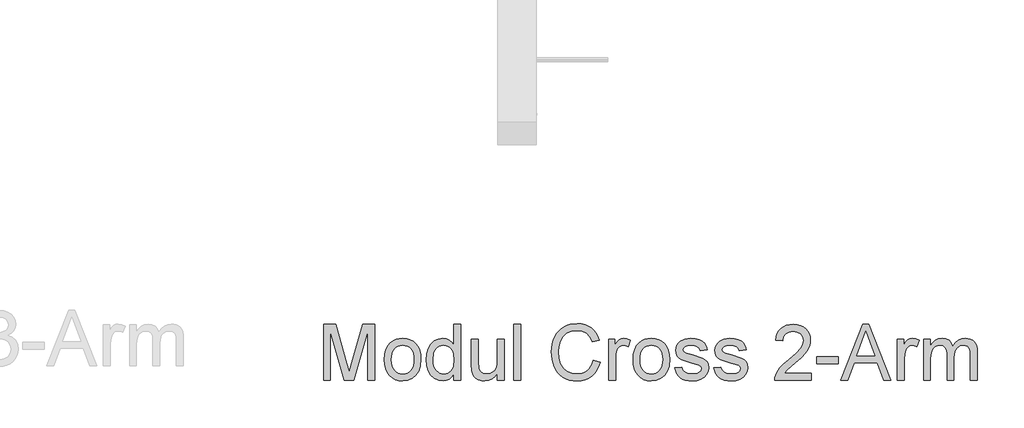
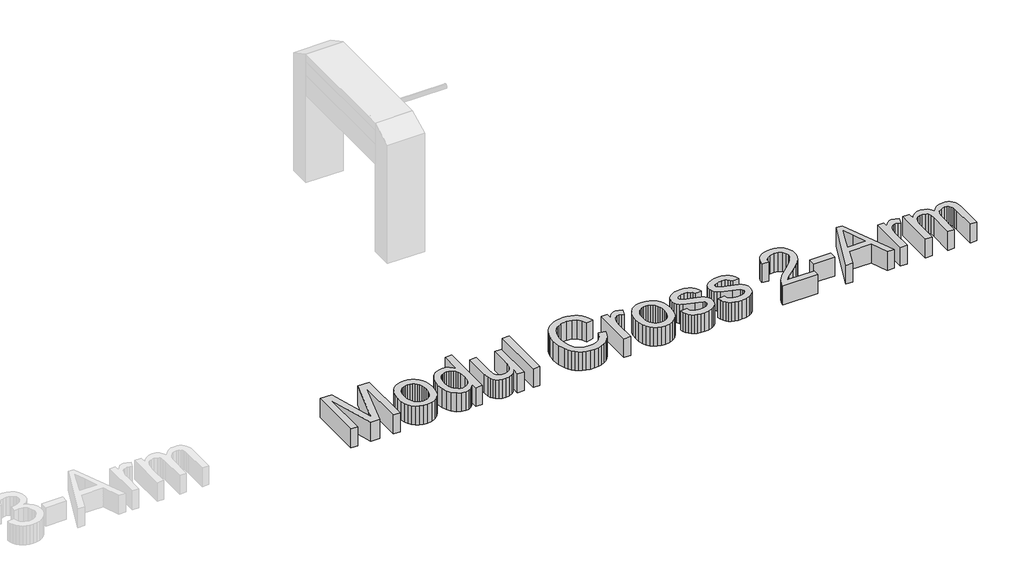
# One storey, part 6 of 6: 1 proxy.
"""IFC4 building model written with IfcOpenShell, lengths in millimetres."""

from ifc_helpers import new_model, si_unit, origin, origin_with_axes, place, context, project, spatial, polyline, outline, extrude, element, save

model = new_model("IFC4")

# Units and contexts
model_context = context("Model", 3, world=origin())
ifc_project = project(units=[si_unit("LENGTHUNIT", "METRE", prefix="MILLI")], contexts=[model_context])

# Site, building, storey
site = spatial("IfcSite", under=ifc_project)
building = spatial("IfcBuilding", under=site)
storey = spatial("IfcBuildingStorey", under=building, Name="Уровень 1", Elevation=0.0)

# Proxy
placement = place(None, origin())
element("IfcBuildingElementProxy", 1, Name="600 мм Arial", ObjectType="600 мм Arial", at=placement, inside=storey, context=model_context, shape_type="SweptSolid", body=[
    extrude(outline(polyline([(9699.3980238, 3807.6645786), (9699.3980238, 4209.4898192), (9785.8257672, 4209.4898192), (9868.0351304, 3926.2697339), (9884.6143456, 3867.114309), (9902.566987, 3931.1748271), (9983.402924, 4209.4898192), (10069.8306674, 4209.4898192), (10069.8306674, 3807.6645786), (10019.6025124, 3807.6645786), (10019.6025124, 4159.2616641), (9918.6556929, 3807.6645786), (9850.5729983, 3807.6645786), (9749.6261788, 4159.2616641), (9749.6261788, 3807.6645786), (9699.3980238, 3807.6645786)])), origin_with_axes(), (0.0, 0.0, 1.0), 150.0),
    extrude(outline(polyline([(10138.8943807, 3955.2097841), (10141.6105761, 3993.4265921), (10149.7591623, 4026.358162), (10163.3401393, 4054.0044939), (10182.353507, 4076.3655879), (10201.4956335, 4090.6578034), (10222.6243228, 4100.8665288), (10245.7395748, 4106.991764), (10270.8413896, 4109.0335091), (10298.5521009, 4106.5472399), (10323.6079305, 4099.0884325), (10346.0088783, 4086.6570867), (10365.7549444, 4069.2532026), (10381.8712414, 4047.4653915), (10393.3828822, 4021.8822644), (10400.2898667, 3992.5038214), (10402.5921948, 3959.3300625), (10398.5209674, 3908.5868726), (10386.3072852, 3869.9592631), (10366.3067674, 3841.0314756), (10338.8750333, 3819.3877515), (10306.2929512, 3805.8864823), (10270.8413896, 3801.3860592), (10242.7260081, 3803.8631313), (10217.4371866, 3811.2943476), (10194.9749252, 3823.6797081), (10175.3392237, 3841.0192128), (10159.3946049, 3863.0185562), (10148.0055914, 3889.3834325), (10141.1721834, 3920.1138418), (10138.8943807, 3955.2097841)]), holes=[polyline([(10189.1225358, 3955.307886), (10190.5756696, 3930.9449009), (10194.9350713, 3909.8499341), (10202.2007407, 3892.0229858), (10212.3726778, 3877.4640558), (10224.7457756, 3866.1547502), (10238.6149268, 3858.0766747), (10253.9801315, 3853.2298294), (10270.8413896, 3851.6142143), (10287.6168086, 3853.2390264), (10302.9206996, 3858.1134629), (10316.7530626, 3866.2375236), (10329.1138976, 3877.6112086), (10339.2858348, 3892.3142257), (10346.5515042, 3910.4262826), (10350.9109059, 3931.9473793), (10352.3640397, 3956.8775159), (10350.9017088, 3980.4679488), (10346.514716, 4001.0110925), (10339.2030614, 4018.5069471), (10328.9667449, 4032.9555125), (10316.5599246, 4044.2648181), (10302.7367586, 4052.3428936), (10287.4972469, 4057.1897389), (10270.8413896, 4058.805354), (10253.9801315, 4057.1958703), (10238.6149268, 4052.3674191), (10224.7457756, 4044.3200004), (10212.3726778, 4033.0536143), (10202.2007407, 4018.5376039), (10194.9350713, 4000.7413124), (10190.5756696, 3979.6647398), (10189.1225358, 3955.307886)])]), origin_with_axes(), (0.0, 0.0, 1.0), 150.0),
    extrude(outline(polyline([(10641.1759314, 3807.6645786), (10641.1759314, 3855.0477796), (10626.1479519, 3831.5707769), (10607.9439245, 3814.8014893), (10586.5638492, 3804.7399168), (10562.0077261, 3801.3860592), (10529.5360086, 3806.2421016), (10499.8111434, 3820.8102286), (10474.6480149, 3844.0726334), (10455.8615077, 3875.0115092), (10444.1628603, 3912.3760572), (10440.2633111, 3954.9154785), (10443.8562919, 3996.9276024), (10454.6352344, 4034.8684988), (10472.5878758, 4066.5799268), (10497.7019533, 4089.9036453), (10528.0767434, 4104.2510431), (10561.8115223, 4109.0335091), (10586.3860396, 4105.6122065), (10608.1156028, 4095.3482988), (10626.534228, 4079.6152122), (10641.1759314, 4059.7863726), (10641.1759314, 4209.4898192), (10691.4040865, 4209.4898192), (10691.4040865, 3807.6645786), (10641.1759314, 3807.6645786)]), holes=[polyline([(10490.4914662, 3955.1116823), (10491.9078119, 3930.7548285), (10496.1568489, 3909.6782559), (10503.2385773, 3891.8819644), (10513.1529971, 3877.365954), (10537.8501417, 3858.0521492), (10551.7254243, 3853.223698), (10566.6185137, 3851.6142143), (10581.5821139, 3853.1501216), (10595.374623, 3857.7578436), (10619.4463682, 3876.1887316), (10628.9530521, 3890.0977367), (10635.7435406, 3907.2502347), (10641.1759314, 3951.2857095), (10635.6454388, 3999.4292), (10628.7323229, 4017.9643212), (10619.0539608, 4032.8083597), (10607.3522477, 4044.1820447), (10594.3690789, 4052.3061054), (10580.1044545, 4057.1805418), (10564.5583746, 4058.805354), (10549.3709795, 4057.2449212), (10535.4956969, 4052.5636228), (10522.9325268, 4044.7614588), (10511.6814691, 4033.8384292), (10502.4108428, 4019.5554108), (10495.7889669, 4001.6732801), (10490.4914662, 3955.1116823)])]), origin_with_axes(), (0.0, 0.0, 1.0), 150.0),
    extrude(outline(polyline([(10955.1019006, 3807.6645786), (10955.1019006, 3858.383243), (10936.9285301, 3833.4469751), (10915.7630526, 3815.6353552), (10891.6054683, 3804.9483832), (10864.455777, 3801.3860592), (10839.9916244, 3803.8876568), (10817.2197288, 3811.3924495), (10798.1143906, 3822.674164), (10784.6499095, 3836.506527), (10775.5877497, 3853.3064715), (10769.6893751, 3873.4909303), (10766.7463191, 3920.1874182), (10766.7463191, 4102.7549897), (10816.9744742, 4102.7549897), (10816.9744742, 3943.8299678), (10820.015632, 3892.620794), (10827.3364837, 3875.5388067), (10839.8812598, 3862.5525723), (10856.8160943, 3854.3488038), (10877.3071214, 3851.6142143), (10898.9753709, 3854.4101175), (10919.2456688, 3862.797827), (10935.9597742, 3876.0047906), (10946.9594458, 3893.2584562), (10953.0662869, 3916.888743), (10955.1019006, 3949.2255704), (10955.1019006, 4102.7549897), (11005.3300557, 4102.7549897), (11005.3300557, 3807.6645786), (10955.1019006, 3807.6645786)])), origin_with_axes(), (0.0, 0.0, 1.0), 150.0),
    extrude(outline(polyline([(11074.3937689, 3807.6645786), (11074.3937689, 4209.4898192), (11124.621924, 4209.4898192), (11124.621924, 3807.6645786), (11074.3937689, 3807.6645786)])), origin_with_axes(), (0.0, 0.0, 1.0), 150.0),
    extrude(outline(polyline([(11645.7390329, 3950.5008946), (11695.967188, 3937.5514484), (11686.0282428, 3906.3152013), (11672.7906223, 3879.0214229), (11656.2543266, 3855.6701133), (11636.4193557, 3836.2612724), (11613.7332993, 3821.0033666), (11588.6437473, 3810.1048625), (11561.1506995, 3803.56576), (11531.254156, 3801.3860592), (11500.6249142, 3803.0353968), (11472.9939107, 3807.9834097), (11448.3611455, 3816.2300977), (11426.7266185, 3827.775461), (11407.7929584, 3842.4478213), (11391.2627941, 3860.0755002), (11377.1361255, 3880.6584978), (11365.4129526, 3904.1968141), (11349.630815, 3956.0681755), (11344.3701025, 4011.6183567), (11350.3175281, 4070.2096958), (11357.75181, 4096.5071271), (11368.1598048, 4120.8057329), (11381.3085205, 4142.7039087), (11396.964965, 4161.8000499), (11415.1291386, 4178.0941566), (11435.801041, 4191.5862288), (11458.2786309, 4202.1659018), (11481.8598668, 4209.7228111), (11532.3332765, 4215.7683386), (11561.0617947, 4213.8124327), (11587.4052112, 4207.9447148), (11611.3635262, 4198.1651851), (11632.9367395, 4184.4738435), (11651.769232, 4167.2324407), (11667.5053843, 4146.8027272), (11680.1451965, 4123.1847031), (11689.6886686, 4096.3783684), (11639.4605135, 4084.4099409), (11622.0474324, 4121.0387248), (11598.2577301, 4146.1650651), (11567.7971009, 4160.6964039), (11530.3712392, 4165.5401835), (11487.2309439, 4160.1691064), (11468.5486699, 4153.45526), (11451.7916451, 4144.055875), (11424.8994712, 4118.8927465), (11407.400551, 4086.3719782), (11397.7988309, 4049.6083041), (11394.5982575, 4011.7164586), (11398.3874421, 3965.3142763), (11409.7549957, 3925.1906133), (11429.1301142, 3892.8783114), (11456.941993, 3869.9102122), (11490.2843645, 3856.1882138), (11526.2509609, 3851.6142143), (11548.087823, 3853.1715814), (11568.1772456, 3857.8436828), (11586.5192287, 3865.6305183), (11603.1137724, 3876.5320881), (11617.5684691, 3890.4993412), (11629.4909115, 3907.4832266), (11638.8810994, 3927.4837444), (11645.7390329, 3950.5008946)])), origin_with_axes(), (0.0, 0.0, 1.0), 150.0),
    extrude(outline(polyline([(11758.7523818, 3807.6645786), (11758.7523818, 4102.7549897), (11802.7020175, 4102.7549897), (11802.7020175, 4059.0996596), (11818.9378762, 4084.4099409), (11833.8984107, 4099.3214244), (11848.9079961, 4106.6054879), (11865.2910076, 4109.0335091), (11890.3069833, 4105.1584854), (11915.7153664, 4093.5334143), (11898.9399475, 4048.5046581), (11881.2816117, 4056.23018), (11863.6232759, 4058.805354), (11848.6259533, 4056.3282819), (11835.2227859, 4048.8970656), (11824.3947925, 4037.0757908), (11817.1229917, 4021.4285433), (11811.0161506, 3993.3714098), (11808.9805369, 3962.7636278), (11808.9805369, 3807.6645786), (11758.7523818, 3807.6645786)])), origin_with_axes(), (0.0, 0.0, 1.0), 150.0),
    extrude(outline(polyline([(11934.5509246, 3955.2097841), (11937.26712, 3993.4265921), (11945.4157062, 4026.358162), (11958.9966832, 4054.0044939), (11978.010051, 4076.3655879), (11997.1521774, 4090.6578034), (12018.2808667, 4100.8665288), (12041.3961187, 4106.991764), (12066.4979335, 4109.0335091), (12094.2086448, 4106.5472399), (12119.2644744, 4099.0884325), (12141.6654222, 4086.6570867), (12161.4114883, 4069.2532026), (12177.5277854, 4047.4653915), (12189.0394261, 4021.8822644), (12195.9464106, 3992.5038214), (12198.2487387, 3959.3300625), (12194.1775113, 3908.5868726), (12181.9638291, 3869.9592631), (12161.9633113, 3841.0314756), (12134.5315772, 3819.3877515), (12101.9494951, 3805.8864823), (12066.4979335, 3801.3860592), (12038.3825521, 3803.8631313), (12013.0937306, 3811.2943476), (11990.6314691, 3823.6797081), (11970.9957676, 3841.0192128), (11955.0511488, 3863.0185562), (11943.6621353, 3889.3834325), (11936.8287273, 3920.1138418), (11934.5509246, 3955.2097841)]), holes=[polyline([(11984.7790797, 3955.307886), (11986.2322136, 3930.9449009), (11990.5916152, 3909.8499341), (11997.8572846, 3892.0229858), (12008.0292218, 3877.4640558), (12020.4023195, 3866.1547502), (12034.2714708, 3858.0766747), (12049.6366754, 3853.2298294), (12066.4979335, 3851.6142143), (12083.2733525, 3853.2390264), (12098.5772435, 3858.1134629), (12112.4096065, 3866.2375236), (12124.7704416, 3877.6112086), (12134.9423787, 3892.3142257), (12142.2080481, 3910.4262826), (12146.5674498, 3931.9473793), (12148.0205837, 3956.8775159), (12146.5582527, 3980.4679488), (12142.1712599, 4001.0110925), (12134.8596053, 4018.5069471), (12124.6232888, 4032.9555125), (12112.2164685, 4044.2648181), (12098.3933025, 4052.3428936), (12083.1537909, 4057.1897389), (12066.4979335, 4058.805354), (12049.6366754, 4057.1958703), (12034.2714708, 4052.3674191), (12020.4023195, 4044.3200004), (12008.0292218, 4033.0536143), (11997.8572846, 4018.5376039), (11990.5916152, 4000.7413124), (11986.2322136, 3979.6647398), (11984.7790797, 3955.307886)])]), origin_with_axes(), (0.0, 0.0, 1.0), 150.0),
    extrude(outline(polyline([(12235.919855, 3895.56385), (12286.1480101, 3901.8423694), (12294.0697358, 3880.3580609), (12309.3981522, 3864.5636605), (12332.2313614, 3854.8515759), (12362.6674651, 3851.6142143), (12392.7356869, 3854.5817957), (12413.8766388, 3863.48454), (12426.3846267, 3876.3849353), (12430.553956, 3891.3454698), (12426.3601012, 3904.1477632), (12413.778537, 3913.9088988), (12362.0788539, 3928.2317712), (12286.4423157, 3952.8062884), (12267.3001892, 3965.1548607), (12253.431038, 3981.5010841), (12245.0065403, 4000.8026261), (12242.1983744, 4022.0171545), (12244.4547173, 4041.478112), (12251.223746, 4059.4430161), (12261.8923239, 4075.2006282), (12275.8473143, 4088.0397099), (12307.7794714, 4102.9021425), (12328.662906, 4107.5006674), (12350.9933431, 4109.0335091), (12383.6857898, 4106.5686997), (12412.1108053, 4099.1742716), (12434.9685399, 4087.573726), (12450.959144, 4072.4905642), (12461.5541454, 4052.8088775), (12468.2250723, 4027.4127571), (12417.9969172, 4021.1342377), (12411.6570841, 4036.9409007), (12399.1123081, 4048.8480147), (12380.2399618, 4056.3160192), (12354.9174178, 4058.805354), (12326.0754693, 4056.4263838), (12306.8475037, 4049.289473), (12296.0317731, 4038.9887772), (12292.4265295, 4027.1184515), (12298.4107433, 4012.5012735), (12317.1481996, 4001.4157627), (12360.4111222, 3990.7226594), (12434.1346741, 3967.0801099), (12453.6078943, 3955.7738699), (12468.3722251, 3940.2983006), (12477.6796395, 3920.6043511), (12480.782111, 3896.6429705), (12477.1400793, 3871.8722495), (12466.213984, 3848.5730565), (12448.4207582, 3828.5725387), (12424.1773347, 3813.6978433), (12394.8939279, 3804.4640053), (12361.9807521, 3801.3860592), (12334.9475568, 3802.8698499), (12311.3356641, 3807.3212221), (12291.1450739, 3814.7401757), (12274.3757863, 3825.1267107), (12260.6783133, 3838.4317761), (12249.7031671, 3854.6063212), (12241.4503477, 3873.6503458), (12235.919855, 3895.56385)])), origin_with_axes(), (0.0, 0.0, 1.0), 150.0),
    extrude(outline(polyline([(12518.4532273, 3895.56385), (12568.6813824, 3901.8423694), (12576.603108, 3880.3580609), (12591.9315245, 3864.5636605), (12614.7647337, 3854.8515759), (12645.2008374, 3851.6142143), (12675.2690592, 3854.5817957), (12696.4100111, 3863.48454), (12708.917999, 3876.3849353), (12713.0873283, 3891.3454698), (12708.8934735, 3904.1477632), (12696.3119093, 3913.9088988), (12644.6122262, 3928.2317712), (12568.975688, 3952.8062884), (12549.8335615, 3965.1548607), (12535.9644103, 3981.5010841), (12527.5399126, 4000.8026261), (12524.7317467, 4022.0171545), (12526.9880896, 4041.478112), (12533.7571183, 4059.4430161), (12544.4256962, 4075.2006282), (12558.3806866, 4088.0397099), (12590.3128437, 4102.9021425), (12611.1962783, 4107.5006674), (12633.5267154, 4109.0335091), (12666.2191621, 4106.5686997), (12694.6441776, 4099.1742716), (12717.5019122, 4087.573726), (12733.4925163, 4072.4905642), (12744.0875177, 4052.8088775), (12750.7584446, 4027.4127571), (12700.5302895, 4021.1342377), (12694.1904564, 4036.9409007), (12681.6456804, 4048.8480147), (12662.7733341, 4056.3160192), (12637.4507901, 4058.805354), (12608.6088416, 4056.4263838), (12589.380876, 4049.289473), (12578.5651454, 4038.9887772), (12574.9599018, 4027.1184515), (12580.9441156, 4012.5012735), (12599.6815719, 4001.4157627), (12642.9444945, 3990.7226594), (12716.6680463, 3967.0801099), (12736.1412666, 3955.7738699), (12750.9055974, 3940.2983006), (12760.2130118, 3920.6043511), (12763.3154833, 3896.6429705), (12759.6734516, 3871.8722495), (12748.7473563, 3848.5730565), (12730.9541305, 3828.5725387), (12706.710707, 3813.6978433), (12677.4273002, 3804.4640053), (12644.5141244, 3801.3860592), (12617.4809291, 3802.8698499), (12593.8690364, 3807.3212221), (12573.6784462, 3814.7401757), (12556.9091586, 3825.1267107), (12543.2116856, 3838.4317761), (12532.2365394, 3854.6063212), (12523.98372, 3873.6503458), (12518.4532273, 3895.56385)])), origin_with_axes(), (0.0, 0.0, 1.0), 150.0),
    extrude(outline(polyline([(13221.6473984, 3857.8927337), (13221.6473984, 3807.6645786), (12957.9495842, 3807.6645786), (12959.0532302, 3825.3474398), (12963.3451868, 3842.2945371), (12975.7305473, 3869.3583892), (12993.854867, 3895.6129009), (13020.0725905, 3923.093686), (13056.7381627, 3953.836358), (13110.9394433, 4001.9798485), (13143.4602117, 4037.5172492), (13159.7205959, 4066.3591976), (13165.1407239, 4094.4163311), (13160.0271642, 4119.5671969), (13144.686485, 4140.4751569), (13121.1052491, 4154.5650373), (13091.2700193, 4159.2616641), (13059.938736, 4154.6754019), (13035.5972107, 4140.9166153), (13019.8886495, 4119.0644248), (13014.4562587, 4090.1979509), (12964.2281036, 4096.4764703), (12968.5476514, 4122.4060196), (12976.4049977, 4145.0614191), (12987.8001425, 4164.4426689), (13002.7330858, 4180.5497689), (13020.8604711, 4193.2110409), (13041.8389419, 4202.2548066), (13065.6684981, 4207.6810661), (13092.3491398, 4209.4898192), (13119.2689048, 4207.478731), (13143.2272198, 4201.4454662), (13164.2240846, 4191.390025), (13182.2594994, 4177.3124074), (13196.744853, 4160.2549455), (13207.0915341, 4141.2599718), (13213.2995428, 4120.3274863), (13215.368879, 4097.4574889), (13213.1370616, 4073.4347947), (13206.4416093, 4049.8290333), (13194.5590208, 4025.8186018), (13176.765795, 4000.5818969), (13148.4020932, 3970.4523615), (13104.8080767, 3931.7634383), (13047.026078, 3883.4482696), (13024.3645471, 3857.8927337), (13221.6473984, 3857.8927337)])), origin_with_axes(), (0.0, 0.0, 1.0), 150.0),
    extrude(outline(polyline([(13259.3185147, 3926.9564469), (13259.3185147, 3977.184602), (13416.2814993, 3977.184602), (13416.2814993, 3926.9564469), (13259.3185147, 3926.9564469)])), origin_with_axes(), (0.0, 0.0, 1.0), 150.0),
    extrude(outline(polyline([(13432.2721034, 3807.6645786), (13592.6686533, 4209.4898192), (13635.4410666, 4209.4898192), (13795.8376165, 3807.6645786), (13742.7645073, 3807.6645786), (13696.7547324, 3933.2349663), (13531.2568855, 3933.2349663), (13485.3452125, 3807.6645786), (13432.2721034, 3807.6645786)]), holes=[polyline([(13549.7000362, 3983.4631214), (13678.4096836, 3983.4631214), (13642.2100953, 4082.2516998), (13614.0548599, 4159.2616641), (13589.0388842, 4090.884664), (13549.7000362, 3983.4631214)])]), origin_with_axes(), (0.0, 0.0, 1.0), 150.0),
    extrude(outline(polyline([(13843.2208174, 3807.6645786), (13843.2208174, 4102.7549897), (13887.1704531, 4102.7549897), (13887.1704531, 4059.0996596), (13903.4063119, 4084.4099409), (13918.3668463, 4099.3214244), (13933.3764317, 4106.6054879), (13949.7594432, 4109.0335091), (13974.7754189, 4105.1584854), (14000.1838021, 4093.5334143), (13983.4083831, 4048.5046581), (13965.7500473, 4056.23018), (13948.0917115, 4058.805354), (13933.0943889, 4056.3282819), (13919.6912215, 4048.8970656), (13908.8632281, 4037.0757908), (13901.5914273, 4021.4285433), (13895.4845862, 3993.3714098), (13893.4489725, 3962.7636278), (13893.4489725, 3807.6645786), (13843.2208174, 3807.6645786)])), origin_with_axes(), (0.0, 0.0, 1.0), 150.0),
    extrude(outline(polyline([(14031.576399, 3807.6645786), (14031.576399, 4102.7549897), (14081.804554, 4102.7549897), (14081.804554, 4054.1945663), (14096.9122413, 4076.500478), (14116.3364107, 4093.9748727), (14139.4148745, 4105.26885), (14165.4854452, 4109.0335091), (14193.4199514, 4105.1952736), (14215.8117022, 4093.6805671), (14232.5380702, 4075.2496792), (14243.4764282, 4050.6628992), (14261.7846888, 4076.200041), (14282.6681234, 4094.4408566), (14306.126732, 4105.3853459), (14332.1605145, 4109.0335091), (14352.2683312, 4107.5159958), (14369.9174699, 4102.9634561), (14385.1079307, 4095.37589), (14397.8397134, 4084.7532974), (14407.9043516, 4070.973051), (14415.0933789, 4053.9125235), (14419.4067953, 4033.5717148), (14420.8446008, 4009.950625), (14420.8446008, 3807.6645786), (14370.6164457, 3807.6645786), (14370.6164457, 3988.3682146), (14369.4514861, 4013.4209785), (14365.9566071, 4030.3067621), (14359.4083076, 4041.8705195), (14349.0830863, 4050.9572048), (14335.8025463, 4056.8433167), (14320.3882907, 4058.805354), (14293.1772857, 4053.7776334), (14270.9940014, 4038.6944716), (14262.3886284, 4027.1245828), (14256.2419334, 4012.525799), (14251.3245774, 3974.241546), (14251.3245774, 3807.6645786), (14201.0964224, 3807.6645786), (14201.0964224, 3993.960021), (14198.1901546, 4022.360511), (14189.4713513, 4042.6185462), (14174.1306721, 4054.758652), (14151.3587766, 4058.805354), (14132.0081837, 4056.1075527), (14114.1781696, 4048.0141488), (14099.4628898, 4034.721346), (14089.4564995, 4016.4253481), (14083.7175404, 3991.0414905), (14081.804554, 3956.4851084), (14081.804554, 3807.6645786), (14031.576399, 3807.6645786)])), origin_with_axes(), (0.0, 0.0, 1.0), 150.0),
])

save(model, "model.ifc")
